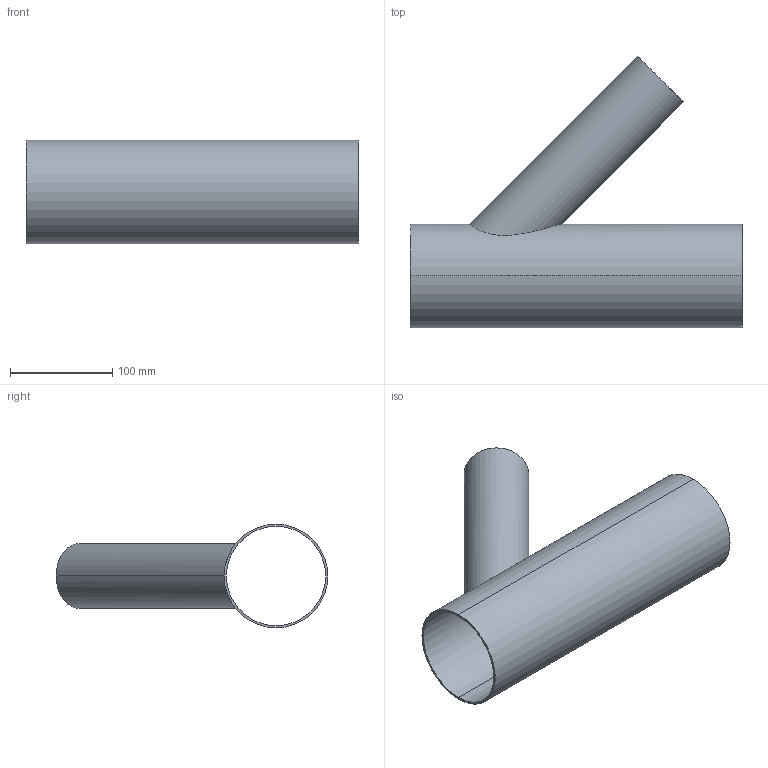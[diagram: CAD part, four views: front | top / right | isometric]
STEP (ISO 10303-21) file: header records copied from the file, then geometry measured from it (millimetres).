
FILE_DESCRIPTION (( 'STEP AP203' ), '1' );
FILE_NAME ('E28RWA 4.0X2.5.STEP', '2021-10-18T16:56:02', ( '' ), ( '' ), 'SwSTEP 2.0', 'SolidWorks 2021', '' );
FILE_SCHEMA (( 'CONFIG_CONTROL_DESIGN' ));
Length unit declared in the file: inch
Products named in the file (1): E28RWA 4.0X2.5
Bounding box: 325.42 x 266.33 x 101.6 mm (x, y, z)
Volume: 272355.8 mm3; surface area: 277709.6 mm2
Topology: 1 solids, 1 shells, 11 faces, 24 edges, 16 vertices
Faces by surface type: cylinder 8, plane 3
Entity records: 681 total; most frequent: CARTESIAN_POINT 344, DIRECTION 56, ORIENTED_EDGE 48, AXIS2_PLACEMENT_3D 24, EDGE_CURVE 24, EDGE_LOOP 16, VERTEX_POINT 16, CIRCLE 12
